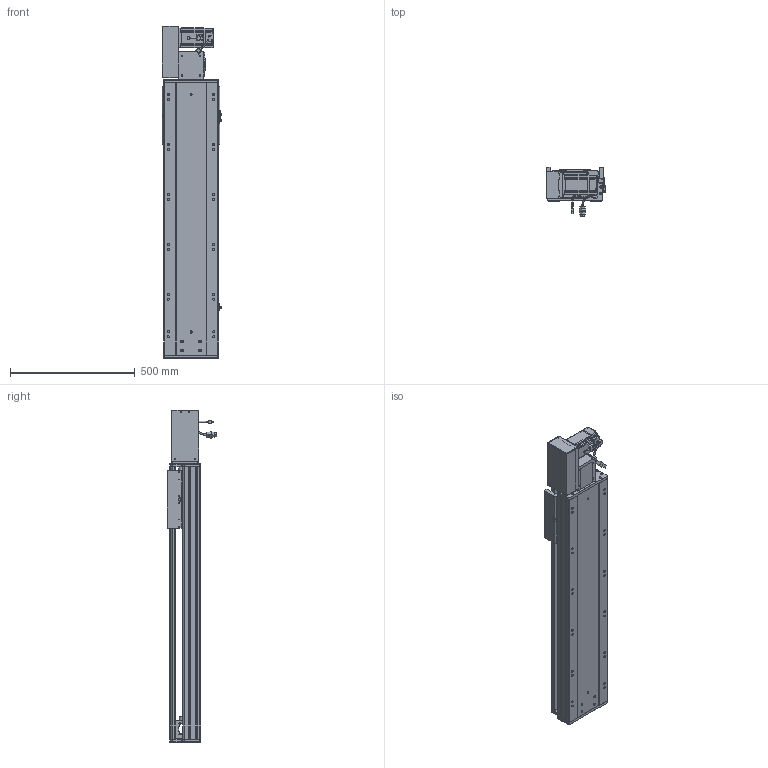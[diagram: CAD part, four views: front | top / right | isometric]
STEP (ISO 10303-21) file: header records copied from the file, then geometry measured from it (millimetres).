
FILE_DESCRIPTION (( 'STEP AP203' ), '1' );
FILE_NAME ('RY220-T-300-LK.SLDASM_750.step', '2022-07-25T08:13:33', ( '' ), ( '' ), 'SwSTEP 2.0', 'SolidWorks 2016', '' );
FILE_SCHEMA (( 'CONFIG_CONTROL_DESIGN' ));
Length unit declared in the file: millimetre
Products named in the file (14): RY220-T-300-奻裔啣_750; 覜茼ん672; RY220-T-300-LK.SLDASM_750; RY220-T菁釱-300_750; RY220-俋离672覜茼んえ; RY220-T-湍謫欶(鍼踢); RY220-T-蛌殏萇儂假蚾啣(750W); RY220-同步轮副支撑座6304×2; RY220翋肮祭謫裔啣; 怢湛750W_ECMA-CX0807ES; 滅袉蝶18-15; 110A-T-肮祭謫釱傷裔; RY220圉猾敕々湍臏賑輸; RY220翋肮祭謫釱
Assembly tree (18 placements, depth 2):
  RY220-T-300-LK.SLDASM_750
    RY220-T菁釱-300_750
    RY220翋肮祭謫釱
    覜茼ん672  x3
    RY220圉猾敕々湍臏賑輸
    RY220-T-300-奻裔啣_750
    RY220-俋离672覜茼んえ
    滅袉蝶18-15  x3
    RY220翋肮祭謫裔啣  x2
    110A-T-肮祭謫釱傷裔
    怢湛750W_ECMA-CX0807ES
    RY220-T-湍謫欶(鍼踢)
    RY220-T-蛌殏萇儂假蚾啣(750W)
    RY220-同步轮副支撑座6304×2
Bounding box: 239.7 x 198.77 x 1329 mm (x, y, z)
Volume: 10642345.1 mm3; surface area: 3053111.2 mm2
Topology: 19 solids, 19 shells, 2578 faces, 7107 edges, 4518 vertices
Faces by surface type: cylinder 1194, plane 1069, cone 233, bspline 56, sphere 16, torus 10
Entity records: 85667 total; most frequent: CARTESIAN_POINT 24471, ORIENTED_EDGE 12730, DIRECTION 11984, EDGE_CURVE 6365, AXIS2_PLACEMENT_3D 4220, VERTEX_POINT 4142, VECTOR 3544, LINE 3544
